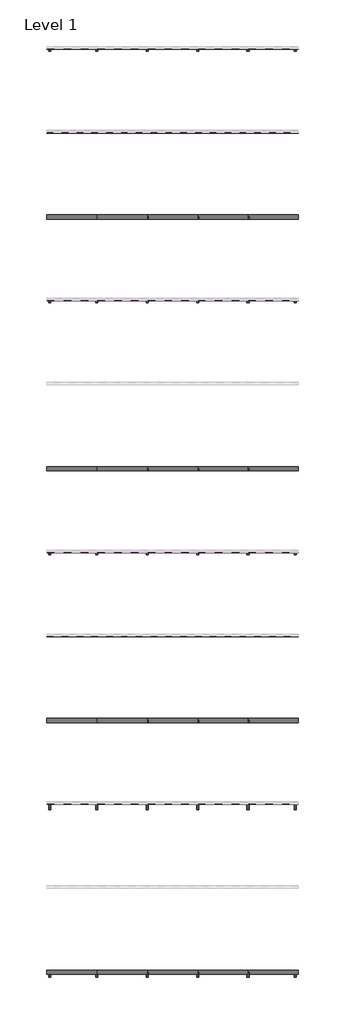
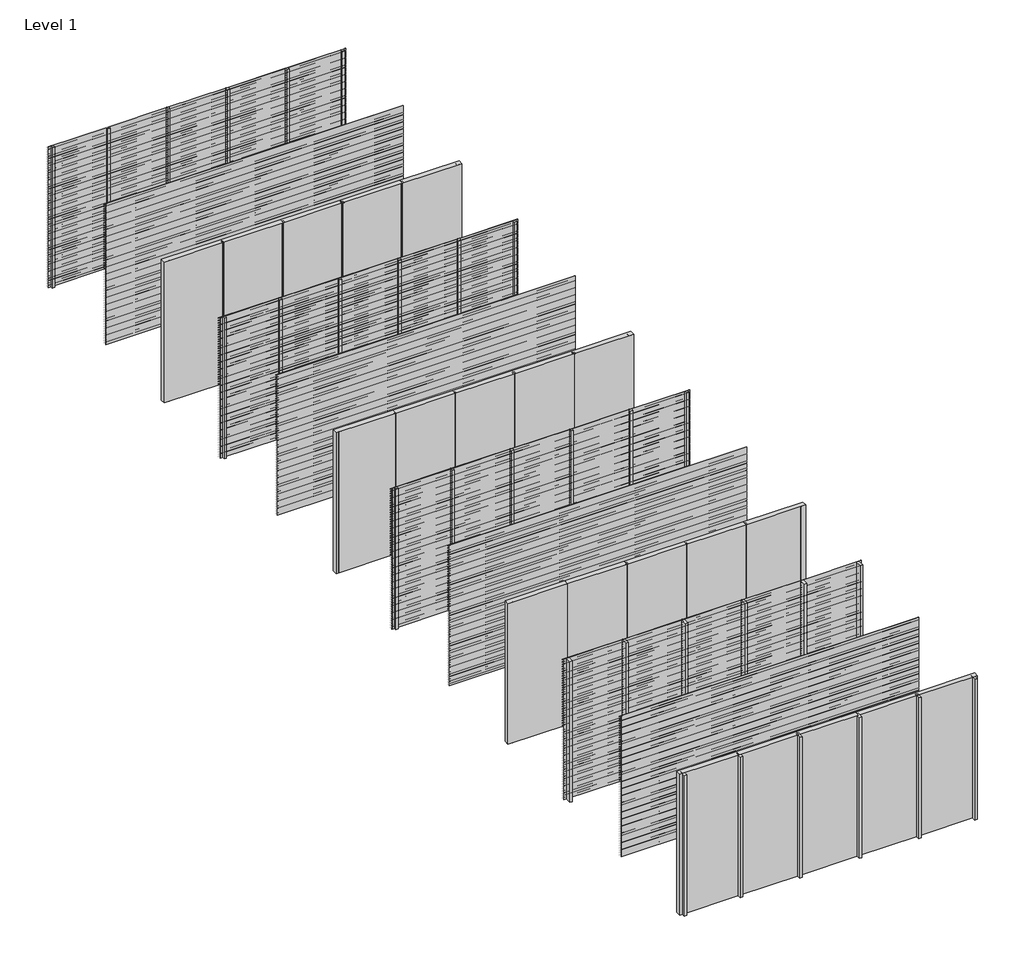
# One storey, part 1 of 16: 48 members, 44 plates, 26 proxies.
"""IFC4 building model written with IfcOpenShell, lengths in millimetres."""

from ifc_helpers import new_model, si_unit, frame, origin, origin_with_axes, place, context, project, spatial, polyline, outline, extrude, transform, mapped, element, save
from components import rectangular_mullion_75c52e10, rectangular_mullion_40295cf1, rectangular_mullion_5829b51c, rectangular_mullion_3b5b8a15, rectangular_mullion_81543344, rectangular_mullion_041a21c4, empty_system_panel_empty_50a928b3, empty_system_panel_empty_6b1ffbf5

model = new_model("IFC4")

# Units and contexts
model_context = context("Model", 3, world=origin())
ifc_project = project(units=[si_unit("LENGTHUNIT", "METRE", prefix="MILLI")], contexts=[model_context])

# Site, building, storey
site = spatial("IfcSite", under=ifc_project)
building = spatial("IfcBuilding", under=site)
storey = spatial("IfcBuildingStorey", under=building, Name="Level 1", Elevation=0.0)

# Proxies
placement = place(None, origin())
element("IfcBuildingElementProxy", 1, Name="Wall Sweeps", at=placement, inside=storey, context=model_context, shape_type="SweptSolid", body=[
    extrude(outline(polyline([(-19995.0, 3000.0), (-19995.0, 2998.0), (-19939.0, 2954.0), (-19939.0, 2946.0), (-19997.0, 2991.5714286), (-19997.0, 3000.0), (-19995.0, 3000.0)])), frame((0.0, 0.0, 0.0), z_axis=(1.0, 0.0, 0.0), x_axis=(0.0, 1.0, 0.0)), (0.0, 0.0, 1.0), 6000.0),
])
element("IfcBuildingElementProxy", 2, Name="Wall Sweeps", at=placement, inside=storey, context=model_context, shape_type="SweptSolid", body=[
    extrude(outline(polyline([(-19995.0, 2950.0), (-19995.0, 2948.0), (-19939.0, 2904.0), (-19939.0, 2896.0), (-19997.0, 2941.5714286), (-19997.0, 2950.0), (-19995.0, 2950.0)])), frame((0.0, 0.0, 0.0), z_axis=(1.0, 0.0, 0.0), x_axis=(0.0, 1.0, 0.0)), (0.0, 0.0, 1.0), 6000.0),
])
element("IfcBuildingElementProxy", 3, Name="Wall Sweeps", at=placement, inside=storey, context=model_context, shape_type="SweptSolid", body=[
    extrude(outline(polyline([(-19995.0, 2900.0), (-19995.0, 2898.0), (-19939.0, 2854.0), (-19939.0, 2846.0), (-19997.0, 2891.5714286), (-19997.0, 2900.0), (-19995.0, 2900.0)])), frame((0.0, 0.0, 0.0), z_axis=(1.0, 0.0, 0.0), x_axis=(0.0, 1.0, 0.0)), (0.0, 0.0, 1.0), 6000.0),
])
element("IfcBuildingElementProxy", 4, Name="Wall Sweeps", at=placement, inside=storey, context=model_context, shape_type="SweptSolid", body=[
    extrude(outline(polyline([(-19995.0, 2850.0), (-19995.0, 2848.0), (-19939.0, 2804.0), (-19939.0, 2796.0), (-19997.0, 2841.5714286), (-19997.0, 2850.0), (-19995.0, 2850.0)])), frame((0.0, 0.0, 0.0), z_axis=(1.0, 0.0, 0.0), x_axis=(0.0, 1.0, 0.0)), (0.0, 0.0, 1.0), 6000.0),
])
element("IfcBuildingElementProxy", 5, Name="Wall Sweeps", at=placement, inside=storey, context=model_context, shape_type="SweptSolid", body=[
    extrude(outline(polyline([(-19995.0, 2800.0), (-19995.0, 2798.0), (-19939.0, 2754.0), (-19939.0, 2746.0), (-19997.0, 2791.5714286), (-19997.0, 2800.0), (-19995.0, 2800.0)])), frame((0.0, 0.0, 0.0), z_axis=(1.0, 0.0, 0.0), x_axis=(0.0, 1.0, 0.0)), (0.0, 0.0, 1.0), 6000.0),
])
element("IfcBuildingElementProxy", 6, Name="Wall Sweeps", at=placement, inside=storey, context=model_context, shape_type="SweptSolid", body=[
    extrude(outline(polyline([(-19995.0, 2750.0), (-19995.0, 2748.0), (-19939.0, 2704.0), (-19939.0, 2696.0), (-19997.0, 2741.5714286), (-19997.0, 2750.0), (-19995.0, 2750.0)])), frame((0.0, 0.0, 0.0), z_axis=(1.0, 0.0, 0.0), x_axis=(0.0, 1.0, 0.0)), (0.0, 0.0, 1.0), 6000.0),
])
element("IfcBuildingElementProxy", 7, Name="Wall Sweeps", at=placement, inside=storey, context=model_context, shape_type="SweptSolid", body=[
    extrude(outline(polyline([(-19995.0, 2700.0), (-19995.0, 2698.0), (-19939.0, 2654.0), (-19939.0, 2646.0), (-19997.0, 2691.5714286), (-19997.0, 2700.0), (-19995.0, 2700.0)])), frame((0.0, 0.0, 0.0), z_axis=(1.0, 0.0, 0.0), x_axis=(0.0, 1.0, 0.0)), (0.0, 0.0, 1.0), 6000.0),
])
element("IfcBuildingElementProxy", 8, Name="Wall Sweeps", at=placement, inside=storey, context=model_context, shape_type="SweptSolid", body=[
    extrude(outline(polyline([(-19995.0, 2650.0), (-19995.0, 2648.0), (-19939.0, 2604.0), (-19939.0, 2596.0), (-19997.0, 2641.5714286), (-19997.0, 2650.0), (-19995.0, 2650.0)])), frame((0.0, 0.0, 0.0), z_axis=(1.0, 0.0, 0.0), x_axis=(0.0, 1.0, 0.0)), (0.0, 0.0, 1.0), 6000.0),
])
element("IfcBuildingElementProxy", 9, Name="Wall Sweeps", at=placement, inside=storey, context=model_context, shape_type="SweptSolid", body=[
    extrude(outline(polyline([(-19995.0, 2600.0), (-19995.0, 2598.0), (-19939.0, 2554.0), (-19939.0, 2546.0), (-19997.0, 2591.5714286), (-19997.0, 2600.0), (-19995.0, 2600.0)])), frame((0.0, 0.0, 0.0), z_axis=(1.0, 0.0, 0.0), x_axis=(0.0, 1.0, 0.0)), (0.0, 0.0, 1.0), 6000.0),
])
element("IfcBuildingElementProxy", 10, Name="Wall Sweeps", at=placement, inside=storey, context=model_context, shape_type="SweptSolid", body=[
    extrude(outline(polyline([(-19995.0, 2550.0), (-19995.0, 2548.0), (-19939.0, 2504.0), (-19939.0, 2496.0), (-19997.0, 2541.5714286), (-19997.0, 2550.0), (-19995.0, 2550.0)])), frame((0.0, 0.0, 0.0), z_axis=(1.0, 0.0, 0.0), x_axis=(0.0, 1.0, 0.0)), (0.0, 0.0, 1.0), 6000.0),
])
element("IfcBuildingElementProxy", 11, Name="Wall Sweeps", at=placement, inside=storey, context=model_context, shape_type="SweptSolid", body=[
    extrude(outline(polyline([(-19995.0, 2500.0), (-19995.0, 2498.0), (-19939.0, 2454.0), (-19939.0, 2446.0), (-19997.0, 2491.5714286), (-19997.0, 2500.0), (-19995.0, 2500.0)])), frame((0.0, 0.0, 0.0), z_axis=(1.0, 0.0, 0.0), x_axis=(0.0, 1.0, 0.0)), (0.0, 0.0, 1.0), 6000.0),
])
element("IfcBuildingElementProxy", 12, Name="Wall Sweeps", at=placement, inside=storey, context=model_context, shape_type="SweptSolid", body=[
    extrude(outline(polyline([(-19995.0, 2450.0), (-19995.0, 2448.0), (-19939.0, 2404.0), (-19939.0, 2396.0), (-19997.0, 2441.5714286), (-19997.0, 2450.0), (-19995.0, 2450.0)])), frame((0.0, 0.0, 0.0), z_axis=(1.0, 0.0, 0.0), x_axis=(0.0, 1.0, 0.0)), (0.0, 0.0, 1.0), 6000.0),
])
element("IfcBuildingElementProxy", 13, Name="Wall Sweeps", at=placement, inside=storey, context=model_context, shape_type="SweptSolid", body=[
    extrude(outline(polyline([(-19995.0, 2400.0), (-19995.0, 2398.0), (-19939.0, 2354.0), (-19939.0, 2346.0), (-19997.0, 2391.5714286), (-19997.0, 2400.0), (-19995.0, 2400.0)])), frame((0.0, 0.0, 0.0), z_axis=(1.0, 0.0, 0.0), x_axis=(0.0, 1.0, 0.0)), (0.0, 0.0, 1.0), 6000.0),
])
element("IfcBuildingElementProxy", 14, Name="Wall Sweeps", at=placement, inside=storey, context=model_context, shape_type="SweptSolid", body=[
    extrude(outline(polyline([(-19995.0, 2350.0), (-19995.0, 2348.0), (-19939.0, 2304.0), (-19939.0, 2296.0), (-19997.0, 2341.5714286), (-19997.0, 2350.0), (-19995.0, 2350.0)])), frame((0.0, 0.0, 0.0), z_axis=(1.0, 0.0, 0.0), x_axis=(0.0, 1.0, 0.0)), (0.0, 0.0, 1.0), 6000.0),
])
element("IfcBuildingElementProxy", 15, Name="Wall Sweeps", at=placement, inside=storey, context=model_context, shape_type="SweptSolid", body=[
    extrude(outline(polyline([(-19995.0, 2300.0), (-19995.0, 2298.0), (-19939.0, 2254.0), (-19939.0, 2246.0), (-19997.0, 2291.5714286), (-19997.0, 2300.0), (-19995.0, 2300.0)])), frame((0.0, 0.0, 0.0), z_axis=(1.0, 0.0, 0.0), x_axis=(0.0, 1.0, 0.0)), (0.0, 0.0, 1.0), 6000.0),
])
element("IfcBuildingElementProxy", 16, Name="Wall Sweeps", at=placement, inside=storey, context=model_context, shape_type="SweptSolid", body=[
    extrude(outline(polyline([(-19995.0, 2250.0), (-19995.0, 2248.0), (-19939.0, 2204.0), (-19939.0, 2196.0), (-19997.0, 2241.5714286), (-19997.0, 2250.0), (-19995.0, 2250.0)])), frame((0.0, 0.0, 0.0), z_axis=(1.0, 0.0, 0.0), x_axis=(0.0, 1.0, 0.0)), (0.0, 0.0, 1.0), 6000.0),
])
element("IfcBuildingElementProxy", 17, Name="Wall Sweeps", at=placement, inside=storey, context=model_context, shape_type="SweptSolid", body=[
    extrude(outline(polyline([(-19995.0, 2200.0), (-19995.0, 2198.0), (-19939.0, 2154.0), (-19939.0, 2146.0), (-19997.0, 2191.5714286), (-19997.0, 2200.0), (-19995.0, 2200.0)])), frame((0.0, 0.0, 0.0), z_axis=(1.0, 0.0, 0.0), x_axis=(0.0, 1.0, 0.0)), (0.0, 0.0, 1.0), 6000.0),
])
element("IfcBuildingElementProxy", 18, Name="Wall Sweeps", at=placement, inside=storey, context=model_context, shape_type="SweptSolid", body=[
    extrude(outline(polyline([(-19995.0, 2150.0), (-19995.0, 2148.0), (-19939.0, 2104.0), (-19939.0, 2096.0), (-19997.0, 2141.5714286), (-19997.0, 2150.0), (-19995.0, 2150.0)])), frame((0.0, 0.0, 0.0), z_axis=(1.0, 0.0, 0.0), x_axis=(0.0, 1.0, 0.0)), (0.0, 0.0, 1.0), 6000.0),
])
element("IfcBuildingElementProxy", 19, Name="Wall Sweeps", at=placement, inside=storey, context=model_context, shape_type="SweptSolid", body=[
    extrude(outline(polyline([(-19995.0, 2100.0), (-19995.0, 2098.0), (-19939.0, 2054.0), (-19939.0, 2046.0), (-19997.0, 2091.5714286), (-19997.0, 2100.0), (-19995.0, 2100.0)])), frame((0.0, 0.0, 0.0), z_axis=(1.0, 0.0, 0.0), x_axis=(0.0, 1.0, 0.0)), (0.0, 0.0, 1.0), 6000.0),
])
element("IfcBuildingElementProxy", 20, Name="Wall Sweeps", at=placement, inside=storey, context=model_context, shape_type="SweptSolid", body=[
    extrude(outline(polyline([(-19995.0, 2050.0), (-19995.0, 2048.0), (-19939.0, 2004.0), (-19939.0, 1996.0), (-19997.0, 2041.5714286), (-19997.0, 2050.0), (-19995.0, 2050.0)])), frame((0.0, 0.0, 0.0), z_axis=(1.0, 0.0, 0.0), x_axis=(0.0, 1.0, 0.0)), (0.0, 0.0, 1.0), 6000.0),
])
element("IfcBuildingElementProxy", 21, Name="Wall Sweeps", at=placement, inside=storey, context=model_context, shape_type="SweptSolid", body=[
    extrude(outline(polyline([(-19995.0, 2000.0), (-19995.0, 1998.0), (-19939.0, 1954.0), (-19939.0, 1946.0), (-19997.0, 1991.5714286), (-19997.0, 2000.0), (-19995.0, 2000.0)])), frame((0.0, 0.0, 0.0), z_axis=(1.0, 0.0, 0.0), x_axis=(0.0, 1.0, 0.0)), (0.0, 0.0, 1.0), 6000.0),
])
element("IfcBuildingElementProxy", 22, Name="Wall Sweeps", at=placement, inside=storey, context=model_context, shape_type="SweptSolid", body=[
    extrude(outline(polyline([(-19995.0, 1950.0), (-19995.0, 1948.0), (-19939.0, 1904.0), (-19939.0, 1896.0), (-19997.0, 1941.5714286), (-19997.0, 1950.0), (-19995.0, 1950.0)])), frame((0.0, 0.0, 0.0), z_axis=(1.0, 0.0, 0.0), x_axis=(0.0, 1.0, 0.0)), (0.0, 0.0, 1.0), 6000.0),
])
element("IfcBuildingElementProxy", 23, Name="Wall Sweeps", at=placement, inside=storey, context=model_context, shape_type="SweptSolid", body=[
    extrude(outline(polyline([(-19995.0, 1900.0), (-19995.0, 1898.0), (-19939.0, 1854.0), (-19939.0, 1846.0), (-19997.0, 1891.5714286), (-19997.0, 1900.0), (-19995.0, 1900.0)])), frame((0.0, 0.0, 0.0), z_axis=(1.0, 0.0, 0.0), x_axis=(0.0, 1.0, 0.0)), (0.0, 0.0, 1.0), 6000.0),
])
element("IfcBuildingElementProxy", 24, Name="Wall Sweeps", at=placement, inside=storey, context=model_context, shape_type="SweptSolid", body=[
    extrude(outline(polyline([(-19995.0, 1850.0), (-19995.0, 1848.0), (-19939.0, 1804.0), (-19939.0, 1796.0), (-19997.0, 1841.5714286), (-19997.0, 1850.0), (-19995.0, 1850.0)])), frame((0.0, 0.0, 0.0), z_axis=(1.0, 0.0, 0.0), x_axis=(0.0, 1.0, 0.0)), (0.0, 0.0, 1.0), 6000.0),
])
element("IfcBuildingElementProxy", 25, Name="Wall Sweeps", at=placement, inside=storey, context=model_context, shape_type="SweptSolid", body=[
    extrude(outline(polyline([(-19995.0, 1800.0), (-19995.0, 1798.0), (-19939.0, 1754.0), (-19939.0, 1746.0), (-19997.0, 1791.5714286), (-19997.0, 1800.0), (-19995.0, 1800.0)])), frame((0.0, 0.0, 0.0), z_axis=(1.0, 0.0, 0.0), x_axis=(0.0, 1.0, 0.0)), (0.0, 0.0, 1.0), 6000.0),
])
element("IfcBuildingElementProxy", 26, Name="Wall Sweeps", at=placement, inside=storey, context=model_context, shape_type="SweptSolid", body=[
    extrude(outline(polyline([(-19995.0, 1750.0), (-19995.0, 1748.0), (-19939.0, 1704.0), (-19939.0, 1696.0), (-19997.0, 1741.5714286), (-19997.0, 1750.0), (-19995.0, 1750.0)])), frame((0.0, 0.0, 0.0), z_axis=(1.0, 0.0, 0.0), x_axis=(0.0, 1.0, 0.0)), (0.0, 0.0, 1.0), 6000.0),
])

# Members
rectangular_mullion_shape = rectangular_mullion_75c52e10(model_context)
element("IfcMember", 27, ObjectType="Rectangular Mullion : RSen_21_CWM_support profile - 50x50 - left_gen_duco projects", at=placement, inside=storey, context=model_context, shape_type="MappedRepresentation", body=[
    mapped(rectangular_mullion_shape, transform((0.0, 0.0, 0.0), x_axis=(-1.0, 0.0, 0.0), y_axis=(0.0, 1.0, 0.0), z_axis=(0.0, 0.0, -1.0))),
])
element("IfcMember", 28, ObjectType="Rectangular Mullion : RSen_21_CWM_support profile - 50x50 - left_gen_duco projects", at=placement, inside=storey, context=model_context, shape_type="MappedRepresentation", body=[
    mapped(rectangular_mullion_shape, transform((0.0, -4000.0, 0.0), x_axis=(-1.0, 0.0, 0.0), y_axis=(0.0, 1.0, 0.0), z_axis=(0.0, 0.0, -1.0))),
])
element("IfcMember", 29, ObjectType="Rectangular Mullion : RSen_21_CWM_support profile - 50x50 - left_gen_duco projects", at=placement, inside=storey, context=model_context, shape_type="MappedRepresentation", body=[
    mapped(rectangular_mullion_shape, transform((0.0, -6000.0, 0.0), x_axis=(-1.0, 0.0, 0.0), y_axis=(0.0, 1.0, 0.0), z_axis=(0.0, 0.0, -1.0))),
])
element("IfcMember", 30, ObjectType="Rectangular Mullion : RSen_21_CWM_support profile - 50x50 - left_gen_duco projects", at=placement, inside=storey, context=model_context, shape_type="MappedRepresentation", body=[
    mapped(rectangular_mullion_shape, transform((0.0, -10000.0, 0.0), x_axis=(-1.0, 0.0, 0.0), y_axis=(0.0, 1.0, 0.0), z_axis=(0.0, 0.0, -1.0))),
])
element("IfcMember", 31, ObjectType="Rectangular Mullion : RSen_21_CWM_support profile - 50x50 - left_gen_duco projects", at=placement, inside=storey, context=model_context, shape_type="MappedRepresentation", body=[
    mapped(rectangular_mullion_shape, transform((0.0, -12000.0, 0.0), x_axis=(-1.0, 0.0, 0.0), y_axis=(0.0, 1.0, 0.0), z_axis=(0.0, 0.0, -1.0))),
])
element("IfcMember", 32, ObjectType="Rectangular Mullion : RSen_21_CWM_support profile - 50x50 - left_gen_duco projects", at=placement, inside=storey, context=model_context, shape_type="MappedRepresentation", body=[
    mapped(rectangular_mullion_shape, transform((0.0, -16000.0, 0.0), x_axis=(-1.0, 0.0, 0.0), y_axis=(0.0, 1.0, 0.0), z_axis=(0.0, 0.0, -1.0))),
])
rectangular_mullion_2_shape = rectangular_mullion_40295cf1(model_context)
element("IfcMember", 33, ObjectType="Rectangular Mullion : RSen_21_CWM_support profile - 50x50 - right_gen_duco projects", at=placement, inside=storey, context=model_context, shape_type="MappedRepresentation", body=[
    mapped(rectangular_mullion_2_shape, transform((6000.0, 0.0, 3000.0), x_axis=(1.0, 0.0, 0.0), y_axis=(0.0, 1.0, 0.0), z_axis=(0.0, 0.0, 1.0))),
])
element("IfcMember", 34, ObjectType="Rectangular Mullion : RSen_21_CWM_support profile - 50x50 - right_gen_duco projects", at=placement, inside=storey, context=model_context, shape_type="MappedRepresentation", body=[
    mapped(rectangular_mullion_2_shape, transform((6000.0, -4000.0, 3000.0), x_axis=(1.0, 0.0, 0.0), y_axis=(0.0, 1.0, 0.0), z_axis=(0.0, 0.0, 1.0))),
])
element("IfcMember", 35, ObjectType="Rectangular Mullion : RSen_21_CWM_support profile - 50x50 - right_gen_duco projects", at=placement, inside=storey, context=model_context, shape_type="MappedRepresentation", body=[
    mapped(rectangular_mullion_2_shape, transform((6000.0, -6000.0, 3000.0), x_axis=(1.0, 0.0, 0.0), y_axis=(0.0, 1.0, 0.0), z_axis=(0.0, 0.0, 1.0))),
])
element("IfcMember", 36, ObjectType="Rectangular Mullion : RSen_21_CWM_support profile - 50x50 - right_gen_duco projects", at=placement, inside=storey, context=model_context, shape_type="MappedRepresentation", body=[
    mapped(rectangular_mullion_2_shape, transform((6000.0, -10000.0, 3000.0), x_axis=(1.0, 0.0, 0.0), y_axis=(0.0, 1.0, 0.0), z_axis=(0.0, 0.0, 1.0))),
])
element("IfcMember", 37, ObjectType="Rectangular Mullion : RSen_21_CWM_support profile - 50x50 - right_gen_duco projects", at=placement, inside=storey, context=model_context, shape_type="MappedRepresentation", body=[
    mapped(rectangular_mullion_2_shape, transform((6000.0, -12000.0, 3000.0), x_axis=(1.0, 0.0, 0.0), y_axis=(0.0, 1.0, 0.0), z_axis=(0.0, 0.0, 1.0))),
])
element("IfcMember", 38, ObjectType="Rectangular Mullion : RSen_21_CWM_support profile - 50x50 - right_gen_duco projects", at=placement, inside=storey, context=model_context, shape_type="MappedRepresentation", body=[
    mapped(rectangular_mullion_2_shape, transform((6000.0, -16000.0, 3000.0), x_axis=(1.0, 0.0, 0.0), y_axis=(0.0, 1.0, 0.0), z_axis=(0.0, 0.0, 1.0))),
])
rectangular_mullion_3_shape = rectangular_mullion_5829b51c(model_context)
element("IfcMember", 39, ObjectType="Rectangular Mullion : RSen_21_CWM_support profile - 50x50_gen_duco projects", at=placement, inside=storey, context=model_context, shape_type="MappedRepresentation", body=[
    mapped(rectangular_mullion_3_shape, transform((4800.0, 0.0, 0.0), x_axis=(-1.0, 0.0, 0.0), y_axis=(0.0, 1.0, 0.0), z_axis=(0.0, 0.0, -1.0))),
])
element("IfcMember", 40, ObjectType="Rectangular Mullion : RSen_21_CWM_support profile - 50x50_gen_duco projects", at=placement, inside=storey, context=model_context, shape_type="MappedRepresentation", body=[
    mapped(rectangular_mullion_3_shape, transform((3600.0, 0.0, 0.0), x_axis=(-1.0, 0.0, 0.0), y_axis=(0.0, 1.0, 0.0), z_axis=(0.0, 0.0, -1.0))),
])
element("IfcMember", 41, ObjectType="Rectangular Mullion : RSen_21_CWM_support profile - 50x50_gen_duco projects", at=placement, inside=storey, context=model_context, shape_type="MappedRepresentation", body=[
    mapped(rectangular_mullion_3_shape, transform((2400.0, 0.0, 0.0), x_axis=(-1.0, 0.0, 0.0), y_axis=(0.0, 1.0, 0.0), z_axis=(0.0, 0.0, -1.0))),
])
element("IfcMember", 42, ObjectType="Rectangular Mullion : RSen_21_CWM_support profile - 50x50_gen_duco projects", at=placement, inside=storey, context=model_context, shape_type="MappedRepresentation", body=[
    mapped(rectangular_mullion_3_shape, transform((1200.0, 0.0, 0.0), x_axis=(-1.0, 0.0, 0.0), y_axis=(0.0, 1.0, 0.0), z_axis=(0.0, 0.0, -1.0))),
])
element("IfcMember", 43, ObjectType="Rectangular Mullion : RSen_21_CWM_support profile - 50x50_gen_duco projects", at=placement, inside=storey, context=model_context, shape_type="MappedRepresentation", body=[
    mapped(rectangular_mullion_3_shape, transform((4800.0, -4000.0, 0.0), x_axis=(-1.0, 0.0, 0.0), y_axis=(0.0, 1.0, 0.0), z_axis=(0.0, 0.0, -1.0))),
])
element("IfcMember", 44, ObjectType="Rectangular Mullion : RSen_21_CWM_support profile - 50x50_gen_duco projects", at=placement, inside=storey, context=model_context, shape_type="MappedRepresentation", body=[
    mapped(rectangular_mullion_3_shape, transform((3600.0, -4000.0, 0.0), x_axis=(-1.0, 0.0, 0.0), y_axis=(0.0, 1.0, 0.0), z_axis=(0.0, 0.0, -1.0))),
])
element("IfcMember", 45, ObjectType="Rectangular Mullion : RSen_21_CWM_support profile - 50x50_gen_duco projects", at=placement, inside=storey, context=model_context, shape_type="MappedRepresentation", body=[
    mapped(rectangular_mullion_3_shape, transform((2400.0, -4000.0, 0.0), x_axis=(-1.0, 0.0, 0.0), y_axis=(0.0, 1.0, 0.0), z_axis=(0.0, 0.0, -1.0))),
])
element("IfcMember", 46, ObjectType="Rectangular Mullion : RSen_21_CWM_support profile - 50x50_gen_duco projects", at=placement, inside=storey, context=model_context, shape_type="MappedRepresentation", body=[
    mapped(rectangular_mullion_3_shape, transform((1200.0, -4000.0, 0.0), x_axis=(-1.0, 0.0, 0.0), y_axis=(0.0, 1.0, 0.0), z_axis=(0.0, 0.0, -1.0))),
])
element("IfcMember", 47, ObjectType="Rectangular Mullion : RSen_21_CWM_support profile - 50x50_gen_duco projects", at=placement, inside=storey, context=model_context, shape_type="MappedRepresentation", body=[
    mapped(rectangular_mullion_3_shape, transform((4800.0, -6000.0, 0.0), x_axis=(-1.0, 0.0, 0.0), y_axis=(0.0, 1.0, 0.0), z_axis=(0.0, 0.0, -1.0))),
])
element("IfcMember", 48, ObjectType="Rectangular Mullion : RSen_21_CWM_support profile - 50x50_gen_duco projects", at=placement, inside=storey, context=model_context, shape_type="MappedRepresentation", body=[
    mapped(rectangular_mullion_3_shape, transform((3600.0, -6000.0, 0.0), x_axis=(-1.0, 0.0, 0.0), y_axis=(0.0, 1.0, 0.0), z_axis=(0.0, 0.0, -1.0))),
])
element("IfcMember", 49, ObjectType="Rectangular Mullion : RSen_21_CWM_support profile - 50x50_gen_duco projects", at=placement, inside=storey, context=model_context, shape_type="MappedRepresentation", body=[
    mapped(rectangular_mullion_3_shape, transform((2400.0, -6000.0, 0.0), x_axis=(-1.0, 0.0, 0.0), y_axis=(0.0, 1.0, 0.0), z_axis=(0.0, 0.0, -1.0))),
])
element("IfcMember", 50, ObjectType="Rectangular Mullion : RSen_21_CWM_support profile - 50x50_gen_duco projects", at=placement, inside=storey, context=model_context, shape_type="MappedRepresentation", body=[
    mapped(rectangular_mullion_3_shape, transform((1200.0, -6000.0, 0.0), x_axis=(-1.0, 0.0, 0.0), y_axis=(0.0, 1.0, 0.0), z_axis=(0.0, 0.0, -1.0))),
])
element("IfcMember", 51, ObjectType="Rectangular Mullion : RSen_21_CWM_support profile - 50x50_gen_duco projects", at=placement, inside=storey, context=model_context, shape_type="MappedRepresentation", body=[
    mapped(rectangular_mullion_3_shape, transform((4800.0, -10000.0, 0.0), x_axis=(-1.0, 0.0, 0.0), y_axis=(0.0, 1.0, 0.0), z_axis=(0.0, 0.0, -1.0))),
])
element("IfcMember", 52, ObjectType="Rectangular Mullion : RSen_21_CWM_support profile - 50x50_gen_duco projects", at=placement, inside=storey, context=model_context, shape_type="MappedRepresentation", body=[
    mapped(rectangular_mullion_3_shape, transform((3600.0, -10000.0, 0.0), x_axis=(-1.0, 0.0, 0.0), y_axis=(0.0, 1.0, 0.0), z_axis=(0.0, 0.0, -1.0))),
])
element("IfcMember", 53, ObjectType="Rectangular Mullion : RSen_21_CWM_support profile - 50x50_gen_duco projects", at=placement, inside=storey, context=model_context, shape_type="MappedRepresentation", body=[
    mapped(rectangular_mullion_3_shape, transform((2400.0, -10000.0, 0.0), x_axis=(-1.0, 0.0, 0.0), y_axis=(0.0, 1.0, 0.0), z_axis=(0.0, 0.0, -1.0))),
])
element("IfcMember", 54, ObjectType="Rectangular Mullion : RSen_21_CWM_support profile - 50x50_gen_duco projects", at=placement, inside=storey, context=model_context, shape_type="MappedRepresentation", body=[
    mapped(rectangular_mullion_3_shape, transform((1200.0, -10000.0, 0.0), x_axis=(-1.0, 0.0, 0.0), y_axis=(0.0, 1.0, 0.0), z_axis=(0.0, 0.0, -1.0))),
])
element("IfcMember", 55, ObjectType="Rectangular Mullion : RSen_21_CWM_support profile - 50x50_gen_duco projects", at=placement, inside=storey, context=model_context, shape_type="MappedRepresentation", body=[
    mapped(rectangular_mullion_3_shape, transform((4800.0, -12000.0, 0.0), x_axis=(-1.0, 0.0, 0.0), y_axis=(0.0, 1.0, 0.0), z_axis=(0.0, 0.0, -1.0))),
])
element("IfcMember", 56, ObjectType="Rectangular Mullion : RSen_21_CWM_support profile - 50x50_gen_duco projects", at=placement, inside=storey, context=model_context, shape_type="MappedRepresentation", body=[
    mapped(rectangular_mullion_3_shape, transform((3600.0, -12000.0, 0.0), x_axis=(-1.0, 0.0, 0.0), y_axis=(0.0, 1.0, 0.0), z_axis=(0.0, 0.0, -1.0))),
])
element("IfcMember", 57, ObjectType="Rectangular Mullion : RSen_21_CWM_support profile - 50x50_gen_duco projects", at=placement, inside=storey, context=model_context, shape_type="MappedRepresentation", body=[
    mapped(rectangular_mullion_3_shape, transform((2400.0, -12000.0, 0.0), x_axis=(-1.0, 0.0, 0.0), y_axis=(0.0, 1.0, 0.0), z_axis=(0.0, 0.0, -1.0))),
])
element("IfcMember", 58, ObjectType="Rectangular Mullion : RSen_21_CWM_support profile - 50x50_gen_duco projects", at=placement, inside=storey, context=model_context, shape_type="MappedRepresentation", body=[
    mapped(rectangular_mullion_3_shape, transform((1200.0, -12000.0, 0.0), x_axis=(-1.0, 0.0, 0.0), y_axis=(0.0, 1.0, 0.0), z_axis=(0.0, 0.0, -1.0))),
])
element("IfcMember", 59, ObjectType="Rectangular Mullion : RSen_21_CWM_support profile - 50x50_gen_duco projects", at=placement, inside=storey, context=model_context, shape_type="MappedRepresentation", body=[
    mapped(rectangular_mullion_3_shape, transform((4800.0, -16000.0, 0.0), x_axis=(-1.0, 0.0, 0.0), y_axis=(0.0, 1.0, 0.0), z_axis=(0.0, 0.0, -1.0))),
])
element("IfcMember", 60, ObjectType="Rectangular Mullion : RSen_21_CWM_support profile - 50x50_gen_duco projects", at=placement, inside=storey, context=model_context, shape_type="MappedRepresentation", body=[
    mapped(rectangular_mullion_3_shape, transform((3600.0, -16000.0, 0.0), x_axis=(-1.0, 0.0, 0.0), y_axis=(0.0, 1.0, 0.0), z_axis=(0.0, 0.0, -1.0))),
])
element("IfcMember", 61, ObjectType="Rectangular Mullion : RSen_21_CWM_support profile - 50x50_gen_duco projects", at=placement, inside=storey, context=model_context, shape_type="MappedRepresentation", body=[
    mapped(rectangular_mullion_3_shape, transform((2400.0, -16000.0, 0.0), x_axis=(-1.0, 0.0, 0.0), y_axis=(0.0, 1.0, 0.0), z_axis=(0.0, 0.0, -1.0))),
])
element("IfcMember", 62, ObjectType="Rectangular Mullion : RSen_21_CWM_support profile - 50x50_gen_duco projects", at=placement, inside=storey, context=model_context, shape_type="MappedRepresentation", body=[
    mapped(rectangular_mullion_3_shape, transform((1200.0, -16000.0, 0.0), x_axis=(-1.0, 0.0, 0.0), y_axis=(0.0, 1.0, 0.0), z_axis=(0.0, 0.0, -1.0))),
])
rectangular_mullion_4_shape = rectangular_mullion_3b5b8a15(model_context)
element("IfcMember", 63, ObjectType="Rectangular Mullion : RSen_21_CWM_support profile - 50x125_gen_duco projects", at=placement, inside=storey, context=model_context, shape_type="MappedRepresentation", body=[
    mapped(rectangular_mullion_4_shape, transform((1200.0000002, -18000.0, 0.0), x_axis=(1.0, 0.0, 0.0), y_axis=(0.0, -1.0, 0.0), z_axis=(0.0, 0.0, -1.0))),
])
element("IfcMember", 64, ObjectType="Rectangular Mullion : RSen_21_CWM_support profile - 50x125_gen_duco projects", at=placement, inside=storey, context=model_context, shape_type="MappedRepresentation", body=[
    mapped(rectangular_mullion_4_shape, transform((2400.0000001, -18000.0, 0.0), x_axis=(1.0, 0.0, 0.0), y_axis=(0.0, -1.0, 0.0), z_axis=(0.0, 0.0, -1.0))),
])
element("IfcMember", 65, ObjectType="Rectangular Mullion : RSen_21_CWM_support profile - 50x125_gen_duco projects", at=placement, inside=storey, context=model_context, shape_type="MappedRepresentation", body=[
    mapped(rectangular_mullion_4_shape, transform((3599.9999999, -18000.0, 0.0), x_axis=(1.0, 0.0, 0.0), y_axis=(0.0, -1.0, 0.0), z_axis=(0.0, 0.0, -1.0))),
])
element("IfcMember", 66, ObjectType="Rectangular Mullion : RSen_21_CWM_support profile - 50x125_gen_duco projects", at=placement, inside=storey, context=model_context, shape_type="MappedRepresentation", body=[
    mapped(rectangular_mullion_4_shape, transform((4799.9999998, -18000.0, 0.0), x_axis=(1.0, 0.0, 0.0), y_axis=(0.0, -1.0, 0.0), z_axis=(0.0, 0.0, -1.0))),
])
element("IfcMember", 67, ObjectType="Rectangular Mullion : RSen_21_CWM_support profile - 50x125_gen_duco projects", at=placement, inside=storey, context=model_context, shape_type="MappedRepresentation", body=[
    mapped(rectangular_mullion_4_shape, transform((1200.0000002, -22000.0, 0.0), x_axis=(1.0, 0.0, 0.0), y_axis=(0.0, -1.0, 0.0), z_axis=(0.0, 0.0, -1.0))),
])
element("IfcMember", 68, ObjectType="Rectangular Mullion : RSen_21_CWM_support profile - 50x125_gen_duco projects", at=placement, inside=storey, context=model_context, shape_type="MappedRepresentation", body=[
    mapped(rectangular_mullion_4_shape, transform((2400.0000001, -22000.0, 0.0), x_axis=(1.0, 0.0, 0.0), y_axis=(0.0, -1.0, 0.0), z_axis=(0.0, 0.0, -1.0))),
])
element("IfcMember", 69, ObjectType="Rectangular Mullion : RSen_21_CWM_support profile - 50x125_gen_duco projects", at=placement, inside=storey, context=model_context, shape_type="MappedRepresentation", body=[
    mapped(rectangular_mullion_4_shape, transform((3599.9999999, -22000.0, 0.0), x_axis=(1.0, 0.0, 0.0), y_axis=(0.0, -1.0, 0.0), z_axis=(0.0, 0.0, -1.0))),
])
element("IfcMember", 70, ObjectType="Rectangular Mullion : RSen_21_CWM_support profile - 50x125_gen_duco projects", at=placement, inside=storey, context=model_context, shape_type="MappedRepresentation", body=[
    mapped(rectangular_mullion_4_shape, transform((4799.9999998, -22000.0, 0.0), x_axis=(1.0, 0.0, 0.0), y_axis=(0.0, -1.0, 0.0), z_axis=(0.0, 0.0, -1.0))),
])
rectangular_mullion_5_shape = rectangular_mullion_81543344(model_context)
element("IfcMember", 71, ObjectType="Rectangular Mullion : RSen_21_CWM_support profile - 50x125 - left_gen_duco projects", at=placement, inside=storey, context=model_context, shape_type="MappedRepresentation", body=[
    mapped(rectangular_mullion_5_shape, transform((6000.0, -18000.0, 0.0), x_axis=(1.0, 0.0, 0.0), y_axis=(0.0, -1.0, 0.0), z_axis=(0.0, 0.0, -1.0))),
])
element("IfcMember", 72, ObjectType="Rectangular Mullion : RSen_21_CWM_support profile - 50x125 - left_gen_duco projects", at=placement, inside=storey, context=model_context, shape_type="MappedRepresentation", body=[
    mapped(rectangular_mullion_5_shape, transform((6000.0, -22000.0, 0.0), x_axis=(1.0, 0.0, 0.0), y_axis=(0.0, -1.0, 0.0), z_axis=(0.0, 0.0, -1.0))),
])
rectangular_mullion_6_shape = rectangular_mullion_041a21c4(model_context)
element("IfcMember", 73, ObjectType="Rectangular Mullion : RSen_21_CWM_support profile - 50x125 - right_gen_duco projects", at=placement, inside=storey, context=model_context, shape_type="MappedRepresentation", body=[
    mapped(rectangular_mullion_6_shape, transform((0.0, -18000.0, 3000.0), x_axis=(-1.0, 0.0, 0.0), y_axis=(0.0, -1.0, 0.0), z_axis=(0.0, 0.0, 1.0))),
])
element("IfcMember", 74, ObjectType="Rectangular Mullion : RSen_21_CWM_support profile - 50x125 - right_gen_duco projects", at=placement, inside=storey, context=model_context, shape_type="MappedRepresentation", body=[
    mapped(rectangular_mullion_6_shape, transform((0.0, -22000.0, 3000.0), x_axis=(-1.0, 0.0, 0.0), y_axis=(0.0, -1.0, 0.0), z_axis=(0.0, 0.0, 1.0))),
])

# Plates
element("IfcPlate", 75, ObjectType="RSen_21_WA_louvre blade classic W 60C_gen_duco projects", at=placement, inside=storey, context=model_context, shape_type="SweptSolid", body=[
    extrude(outline(polyline([(0.0, 1.0), (1200.0, 1.0), (1200.0, -1.0), (0.0, -1.0), (0.0, 1.0)])), origin_with_axes(), (0.0, 0.0, 1.0), 3000.0),
])
element("IfcPlate", 76, ObjectType="RSen_21_WA_louvre blade classic W 60C_gen_duco projects", at=placement, inside=storey, context=model_context, shape_type="SweptSolid", body=[
    extrude(outline(polyline([(1200.0, 1.0), (2400.0, 1.0), (2400.0, -1.0), (1200.0, -1.0), (1200.0, 1.0)])), origin_with_axes(), (0.0, 0.0, 1.0), 3000.0),
])
element("IfcPlate", 77, ObjectType="RSen_21_WA_louvre blade classic W 60C_gen_duco projects", at=placement, inside=storey, context=model_context, shape_type="SweptSolid", body=[
    extrude(outline(polyline([(2400.0, 1.0), (3600.0, 1.0), (3600.0, -1.0), (2400.0, -1.0), (2400.0, 1.0)])), origin_with_axes(), (0.0, 0.0, 1.0), 3000.0),
])
element("IfcPlate", 78, ObjectType="RSen_21_WA_louvre blade classic W 60C_gen_duco projects", at=placement, inside=storey, context=model_context, shape_type="SweptSolid", body=[
    extrude(outline(polyline([(3600.0, 1.0), (4800.0, 1.0), (4800.0, -1.0), (3600.0, -1.0), (3600.0, 1.0)])), origin_with_axes(), (0.0, 0.0, 1.0), 3000.0),
])
element("IfcPlate", 79, ObjectType="RSen_21_WA_louvre blade classic W 60C_gen_duco projects", at=placement, inside=storey, context=model_context, shape_type="SweptSolid", body=[
    extrude(outline(polyline([(4800.0, 1.0), (6000.0, 1.0), (6000.0, -1.0), (4800.0, -1.0), (4800.0, 1.0)])), origin_with_axes(), (0.0, 0.0, 1.0), 3000.0),
])
element("IfcPlate", 80, ObjectType="RSen_21_WA_louvre blade classic W 60C_gen_duco projects", at=placement, inside=storey, context=model_context, shape_type="SweptSolid", body=[
    extrude(outline(polyline([(0.0, -1999.0), (6000.0, -1999.0), (6000.0, -2001.0), (0.0, -2001.0), (0.0, -1999.0)])), origin_with_axes(), (0.0, 0.0, 1.0), 3000.0),
])
element("IfcPlate", 81, ObjectType="RSen_21_WA_louvre blade classic W 60C_gen_duco projects", at=placement, inside=storey, context=model_context, shape_type="SweptSolid", body=[
    extrude(outline(polyline([(0.0, -5999.0), (1200.0, -5999.0), (1200.0, -6001.0), (0.0, -6001.0), (0.0, -5999.0)])), origin_with_axes(), (0.0, 0.0, 1.0), 3000.0),
])
element("IfcPlate", 82, ObjectType="RSen_21_WA_louvre blade classic W 60C_gen_duco projects", at=placement, inside=storey, context=model_context, shape_type="SweptSolid", body=[
    extrude(outline(polyline([(1200.0, -5999.0), (2400.0, -5999.0), (2400.0, -6001.0), (1200.0, -6001.0), (1200.0, -5999.0)])), origin_with_axes(), (0.0, 0.0, 1.0), 3000.0),
])
element("IfcPlate", 83, ObjectType="RSen_21_WA_louvre blade classic W 60C_gen_duco projects", at=placement, inside=storey, context=model_context, shape_type="SweptSolid", body=[
    extrude(outline(polyline([(2400.0, -5999.0), (3600.0, -5999.0), (3600.0, -6001.0), (2400.0, -6001.0), (2400.0, -5999.0)])), origin_with_axes(), (0.0, 0.0, 1.0), 3000.0),
])
element("IfcPlate", 84, ObjectType="RSen_21_WA_louvre blade classic W 60C_gen_duco projects", at=placement, inside=storey, context=model_context, shape_type="SweptSolid", body=[
    extrude(outline(polyline([(3600.0, -5999.0), (4800.0, -5999.0), (4800.0, -6001.0), (3600.0, -6001.0), (3600.0, -5999.0)])), origin_with_axes(), (0.0, 0.0, 1.0), 3000.0),
])
element("IfcPlate", 85, ObjectType="RSen_21_WA_louvre blade classic W 60C_gen_duco projects", at=placement, inside=storey, context=model_context, shape_type="SweptSolid", body=[
    extrude(outline(polyline([(4800.0, -5999.0), (6000.0, -5999.0), (6000.0, -6001.0), (4800.0, -6001.0), (4800.0, -5999.0)])), origin_with_axes(), (0.0, 0.0, 1.0), 3000.0),
])
element("IfcPlate", 86, ObjectType="RSen_21_WA_louvre blade classic W 60C_gen_duco projects", at=placement, inside=storey, context=model_context, shape_type="SweptSolid", body=[
    extrude(outline(polyline([(0.0, -7999.0), (6000.0, -7999.0), (6000.0, -8001.0), (0.0, -8001.0), (0.0, -7999.0)])), origin_with_axes(), (0.0, 0.0, 1.0), 3000.0),
])
element("IfcPlate", 87, ObjectType="RSen_21_WA_louvre blade classic W 60C_gen_duco projects", at=placement, inside=storey, context=model_context, shape_type="SweptSolid", body=[
    extrude(outline(polyline([(0.0, -11999.0), (1200.0, -11999.0), (1200.0, -12001.0), (0.0, -12001.0), (0.0, -11999.0)])), origin_with_axes(), (0.0, 0.0, 1.0), 3000.0),
])
element("IfcPlate", 88, ObjectType="RSen_21_WA_louvre blade classic W 60C_gen_duco projects", at=placement, inside=storey, context=model_context, shape_type="SweptSolid", body=[
    extrude(outline(polyline([(1200.0, -11999.0), (2400.0, -11999.0), (2400.0, -12001.0), (1200.0, -12001.0), (1200.0, -11999.0)])), origin_with_axes(), (0.0, 0.0, 1.0), 3000.0),
])
element("IfcPlate", 89, ObjectType="RSen_21_WA_louvre blade classic W 60C_gen_duco projects", at=placement, inside=storey, context=model_context, shape_type="SweptSolid", body=[
    extrude(outline(polyline([(2400.0, -11999.0), (3600.0, -11999.0), (3600.0, -12001.0), (2400.0, -12001.0), (2400.0, -11999.0)])), origin_with_axes(), (0.0, 0.0, 1.0), 3000.0),
])
element("IfcPlate", 90, ObjectType="RSen_21_WA_louvre blade classic W 60C_gen_duco projects", at=placement, inside=storey, context=model_context, shape_type="SweptSolid", body=[
    extrude(outline(polyline([(3600.0, -11999.0), (4800.0, -11999.0), (4800.0, -12001.0), (3600.0, -12001.0), (3600.0, -11999.0)])), origin_with_axes(), (0.0, 0.0, 1.0), 3000.0),
])
element("IfcPlate", 91, ObjectType="RSen_21_WA_louvre blade classic W 60C_gen_duco projects", at=placement, inside=storey, context=model_context, shape_type="SweptSolid", body=[
    extrude(outline(polyline([(4800.0, -11999.0), (6000.0, -11999.0), (6000.0, -12001.0), (4800.0, -12001.0), (4800.0, -11999.0)])), origin_with_axes(), (0.0, 0.0, 1.0), 3000.0),
])
element("IfcPlate", 92, ObjectType="RSen_21_WA_louvre blade classic W 60C_gen_duco projects", at=placement, inside=storey, context=model_context, shape_type="SweptSolid", body=[
    extrude(outline(polyline([(0.0, -13999.0), (6000.0, -13999.0), (6000.0, -14001.0), (0.0, -14001.0), (0.0, -13999.0)])), origin_with_axes(), (0.0, 0.0, 1.0), 3000.0),
])
element("IfcPlate", 93, ObjectType="RSen_21_WA_louvre blade classic W 60C_gen_duco projects", at=placement, inside=storey, context=model_context, shape_type="SweptSolid", body=[
    extrude(outline(polyline([(6000.0, -18001.0), (4799.9999998, -18001.0), (4799.9999998, -17999.0), (6000.0, -17999.0), (6000.0, -18001.0)])), origin_with_axes(), (0.0, 0.0, 1.0), 3000.0),
])
element("IfcPlate", 94, ObjectType="RSen_21_WA_louvre blade classic W 60C_gen_duco projects", at=placement, inside=storey, context=model_context, shape_type="SweptSolid", body=[
    extrude(outline(polyline([(4799.9999998, -18001.0), (3599.9999999, -18001.0), (3599.9999999, -17999.0), (4799.9999998, -17999.0), (4799.9999998, -18001.0)])), origin_with_axes(), (0.0, 0.0, 1.0), 3000.0),
])
element("IfcPlate", 95, ObjectType="RSen_21_WA_louvre blade classic W 60C_gen_duco projects", at=placement, inside=storey, context=model_context, shape_type="SweptSolid", body=[
    extrude(outline(polyline([(3599.9999999, -18001.0), (2400.0000001, -18001.0), (2400.0000001, -17999.0), (3599.9999999, -17999.0), (3599.9999999, -18001.0)])), origin_with_axes(), (0.0, 0.0, 1.0), 3000.0),
])
element("IfcPlate", 96, ObjectType="RSen_21_WA_louvre blade classic W 60C_gen_duco projects", at=placement, inside=storey, context=model_context, shape_type="SweptSolid", body=[
    extrude(outline(polyline([(2400.0000001, -18001.0), (1200.0000002, -18001.0), (1200.0000002, -17999.0), (2400.0000001, -17999.0), (2400.0000001, -18001.0)])), origin_with_axes(), (0.0, 0.0, 1.0), 3000.0),
])
element("IfcPlate", 97, ObjectType="RSen_21_WA_louvre blade classic W 60C_gen_duco projects", at=placement, inside=storey, context=model_context, shape_type="SweptSolid", body=[
    extrude(outline(polyline([(1200.0000002, -18001.0), (0.0, -18001.0), (0.0, -17999.0), (1200.0000002, -17999.0), (1200.0000002, -18001.0)])), origin_with_axes(), (0.0, 0.0, 1.0), 3000.0),
])
element("IfcPlate", 98, ObjectType="RSen_21_WA_louvre blade classic W 60C_gen_duco projects", at=placement, inside=storey, context=model_context, shape_type="SweptSolid", body=[
    extrude(outline(polyline([(6000.0, -20001.0), (0.0, -20001.0), (0.0, -19999.0), (6000.0, -19999.0), (6000.0, -20001.0)])), origin_with_axes(), (0.0, 0.0, 1.0), 3000.0),
])
empty_system_panel_empty_shape = empty_system_panel_empty_50a928b3(model_context)
element("IfcPlate", 99, ObjectType="Empty System Panel : Empty", at=placement, inside=storey, context=model_context, shape_type="MappedRepresentation", body=[
    mapped(empty_system_panel_empty_shape, transform((5400.0, -4000.0, 0.0), x_axis=(-1.0, 0.0, 0.0), y_axis=(0.0, -1.0, 0.0), z_axis=(0.0, 0.0, 1.0))),
])
element("IfcPlate", 100, ObjectType="Empty System Panel : Empty", at=placement, inside=storey, context=model_context, shape_type="MappedRepresentation", body=[
    mapped(empty_system_panel_empty_shape, transform((5400.0, -10000.0, 0.0), x_axis=(-1.0, 0.0, 0.0), y_axis=(0.0, -1.0, 0.0), z_axis=(0.0, 0.0, 1.0))),
])
element("IfcPlate", 101, ObjectType="Empty System Panel : Empty", at=placement, inside=storey, context=model_context, shape_type="MappedRepresentation", body=[
    mapped(empty_system_panel_empty_shape, transform((5400.0, -16000.0, 0.0), x_axis=(-1.0, 0.0, 0.0), y_axis=(0.0, -1.0, 0.0), z_axis=(0.0, 0.0, 1.0))),
])
element("IfcPlate", 102, ObjectType="Empty System Panel : Empty", at=placement, inside=storey, context=model_context, shape_type="MappedRepresentation", body=[
    mapped(empty_system_panel_empty_shape, transform((4200.0, -4000.0, 0.0), x_axis=(-1.0, 0.0, 0.0), y_axis=(0.0, -1.0, 0.0), z_axis=(0.0, 0.0, 1.0))),
])
element("IfcPlate", 103, ObjectType="Empty System Panel : Empty", at=placement, inside=storey, context=model_context, shape_type="MappedRepresentation", body=[
    mapped(empty_system_panel_empty_shape, transform((3000.0, -4000.0, 0.0), x_axis=(-1.0, 0.0, 0.0), y_axis=(0.0, -1.0, 0.0), z_axis=(0.0, 0.0, 1.0))),
])
element("IfcPlate", 104, ObjectType="Empty System Panel : Empty", at=placement, inside=storey, context=model_context, shape_type="MappedRepresentation", body=[
    mapped(empty_system_panel_empty_shape, transform((1800.0, -4000.0, 0.0), x_axis=(-1.0, 0.0, 0.0), y_axis=(0.0, -1.0, 0.0), z_axis=(0.0, 0.0, 1.0))),
])
element("IfcPlate", 105, ObjectType="Empty System Panel : Empty", at=placement, inside=storey, context=model_context, shape_type="MappedRepresentation", body=[
    mapped(empty_system_panel_empty_shape, transform((600.0, -4000.0, 0.0), x_axis=(-1.0, 0.0, 0.0), y_axis=(0.0, -1.0, 0.0), z_axis=(0.0, 0.0, 1.0))),
])
element("IfcPlate", 106, ObjectType="Empty System Panel : Empty", at=placement, inside=storey, context=model_context, shape_type="MappedRepresentation", body=[
    mapped(empty_system_panel_empty_shape, transform((4200.0, -10000.0, 0.0), x_axis=(-1.0, 0.0, 0.0), y_axis=(0.0, -1.0, 0.0), z_axis=(0.0, 0.0, 1.0))),
])
element("IfcPlate", 107, ObjectType="Empty System Panel : Empty", at=placement, inside=storey, context=model_context, shape_type="MappedRepresentation", body=[
    mapped(empty_system_panel_empty_shape, transform((3000.0, -10000.0, 0.0), x_axis=(-1.0, 0.0, 0.0), y_axis=(0.0, -1.0, 0.0), z_axis=(0.0, 0.0, 1.0))),
])
element("IfcPlate", 108, ObjectType="Empty System Panel : Empty", at=placement, inside=storey, context=model_context, shape_type="MappedRepresentation", body=[
    mapped(empty_system_panel_empty_shape, transform((1800.0, -10000.0, 0.0), x_axis=(-1.0, 0.0, 0.0), y_axis=(0.0, -1.0, 0.0), z_axis=(0.0, 0.0, 1.0))),
])
element("IfcPlate", 109, ObjectType="Empty System Panel : Empty", at=placement, inside=storey, context=model_context, shape_type="MappedRepresentation", body=[
    mapped(empty_system_panel_empty_shape, transform((600.0, -10000.0, 0.0), x_axis=(-1.0, 0.0, 0.0), y_axis=(0.0, -1.0, 0.0), z_axis=(0.0, 0.0, 1.0))),
])
element("IfcPlate", 110, ObjectType="Empty System Panel : Empty", at=placement, inside=storey, context=model_context, shape_type="MappedRepresentation", body=[
    mapped(empty_system_panel_empty_shape, transform((4200.0, -16000.0, 0.0), x_axis=(-1.0, 0.0, 0.0), y_axis=(0.0, -1.0, 0.0), z_axis=(0.0, 0.0, 1.0))),
])
element("IfcPlate", 111, ObjectType="Empty System Panel : Empty", at=placement, inside=storey, context=model_context, shape_type="MappedRepresentation", body=[
    mapped(empty_system_panel_empty_shape, transform((3000.0, -16000.0, 0.0), x_axis=(-1.0, 0.0, 0.0), y_axis=(0.0, -1.0, 0.0), z_axis=(0.0, 0.0, 1.0))),
])
element("IfcPlate", 112, ObjectType="Empty System Panel : Empty", at=placement, inside=storey, context=model_context, shape_type="MappedRepresentation", body=[
    mapped(empty_system_panel_empty_shape, transform((1800.0, -16000.0, 0.0), x_axis=(-1.0, 0.0, 0.0), y_axis=(0.0, -1.0, 0.0), z_axis=(0.0, 0.0, 1.0))),
])
element("IfcPlate", 113, ObjectType="Empty System Panel : Empty", at=placement, inside=storey, context=model_context, shape_type="MappedRepresentation", body=[
    mapped(empty_system_panel_empty_shape, transform((600.0, -16000.0, 0.0), x_axis=(-1.0, 0.0, 0.0), y_axis=(0.0, -1.0, 0.0), z_axis=(0.0, 0.0, 1.0))),
])
empty_system_panel_empty_2_shape = empty_system_panel_empty_6b1ffbf5(model_context)
element("IfcPlate", 114, ObjectType="Empty System Panel : Empty", at=placement, inside=storey, context=model_context, shape_type="MappedRepresentation", body=[
    mapped(empty_system_panel_empty_2_shape, transform((600.0000001, -22000.0, 0.0), x_axis=(1.0, 0.0, 0.0), y_axis=(0.0, 1.0, 0.0), z_axis=(0.0, 0.0, 1.0))),
])
element("IfcPlate", 115, ObjectType="Empty System Panel : Empty", at=placement, inside=storey, context=model_context, shape_type="MappedRepresentation", body=[
    mapped(empty_system_panel_empty_2_shape, transform((1800.0000001, -22000.0, 0.0), x_axis=(1.0, 0.0, 0.0), y_axis=(0.0, 1.0, 0.0), z_axis=(0.0, 0.0, 1.0))),
])
element("IfcPlate", 116, ObjectType="Empty System Panel : Empty", at=placement, inside=storey, context=model_context, shape_type="MappedRepresentation", body=[
    mapped(empty_system_panel_empty_2_shape, transform((3000.0, -22000.0, 0.0), x_axis=(1.0, 0.0, 0.0), y_axis=(0.0, 1.0, 0.0), z_axis=(0.0, 0.0, 1.0))),
])
element("IfcPlate", 117, ObjectType="Empty System Panel : Empty", at=placement, inside=storey, context=model_context, shape_type="MappedRepresentation", body=[
    mapped(empty_system_panel_empty_2_shape, transform((4199.9999999, -22000.0, 0.0), x_axis=(1.0, 0.0, 0.0), y_axis=(0.0, 1.0, 0.0), z_axis=(0.0, 0.0, 1.0))),
])
element("IfcPlate", 118, ObjectType="Empty System Panel : Empty", at=placement, inside=storey, context=model_context, shape_type="MappedRepresentation", body=[
    mapped(empty_system_panel_empty_2_shape, transform((5399.9999999, -22000.0, 0.0), x_axis=(1.0, 0.0, 0.0), y_axis=(0.0, 1.0, 0.0), z_axis=(0.0, 0.0, 1.0))),
])

save(model, "model.ifc")
